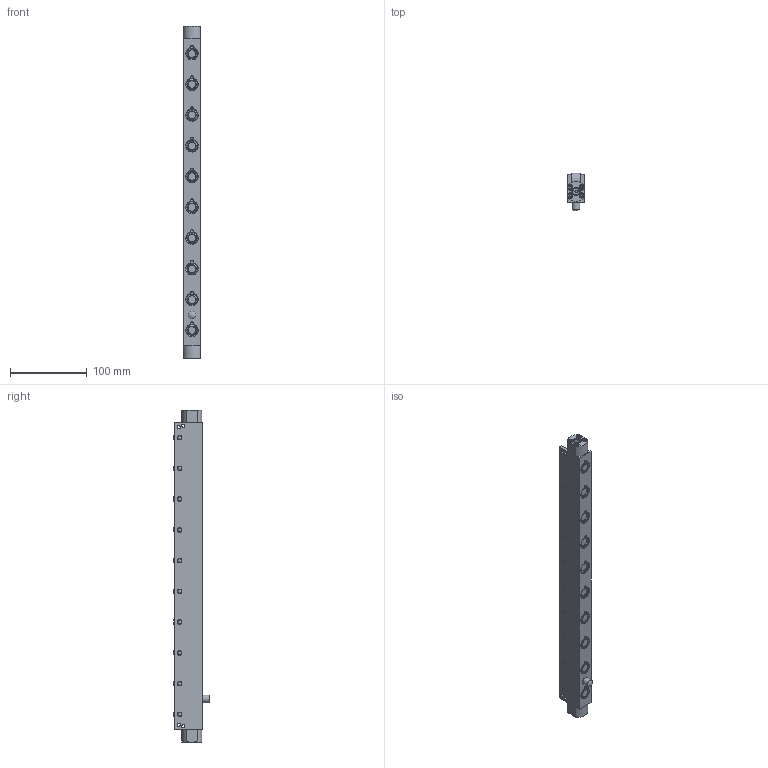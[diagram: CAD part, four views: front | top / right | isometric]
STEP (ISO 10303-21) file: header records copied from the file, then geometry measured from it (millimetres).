
FILE_DESCRIPTION(/* description */ (''),/* implementation_level */ '2;1');
FILE_NAME(/* name */ 'S:\EASCN Vault\Designs\Standard Part\DIE LIFTERS\EHR\EHR- 3D step\EHR22-C - 3D step complete serie\EHR22-10-C.stp',/* time_stamp */ '2019-09-06T13:28:08+08:00',/* author */ ('yue.yang'),/* organization */ (''),/* preprocessor_version */ 'ST-DEVELOPER v17',/* originating_system */ 'Autodesk Inventor 2019',/* authorisation */ '');
FILE_SCHEMA (('AUTOMOTIVE_DESIGN { 1 0 10303 214 3 1 1 }'));
Length unit declared in the file: millimetre
Products named in the file (1): EHR22-10-C_Shrinkwrap_1
Bounding box: 21.8 x 48.05 x 432 mm (x, y, z)
Volume: 259449.6 mm3; surface area: 102265.2 mm2
Topology: 6 solids, 6 shells, 710 faces, 2035 edges, 1403 vertices
Faces by surface type: cylinder 234, plane 215, cone 130, torus 110, sphere 21
Full cylindrical faces by diameter (mm): 3 x10, 3.2 x8, 4 x8, 5 x40, 6 x19, 8.566 x2, 10 x3, 11 x10, 12.5 x20, 13.4 x10, 13.8 x10, 15.95 x20, 16 x30
Entity records: 25921 total; most frequent: CARTESIAN_POINT 5657, DIRECTION 4461, ORIENTED_EDGE 4042, EDGE_CURVE 2021, AXIS2_PLACEMENT_3D 1957, VERTEX_POINT 1407, CIRCLE 1246, EDGE_LOOP 862
